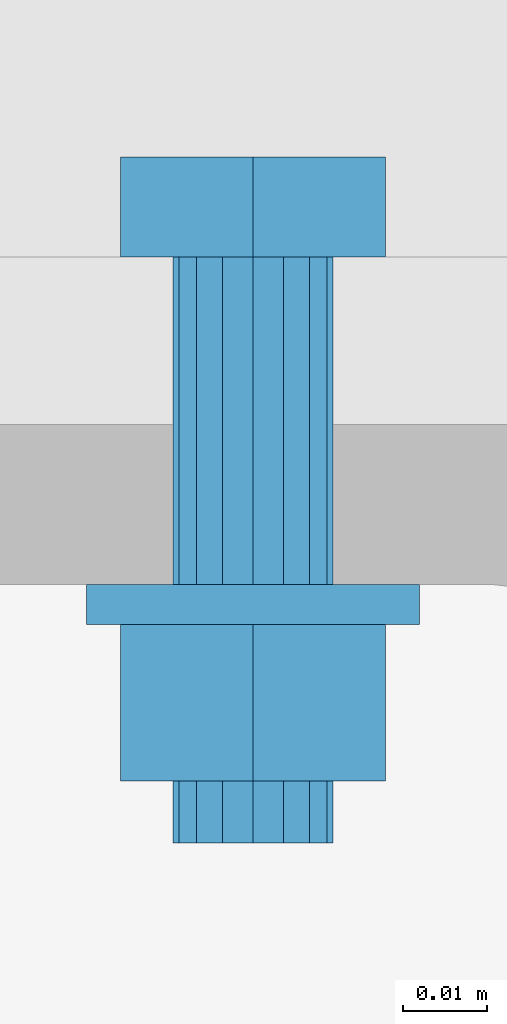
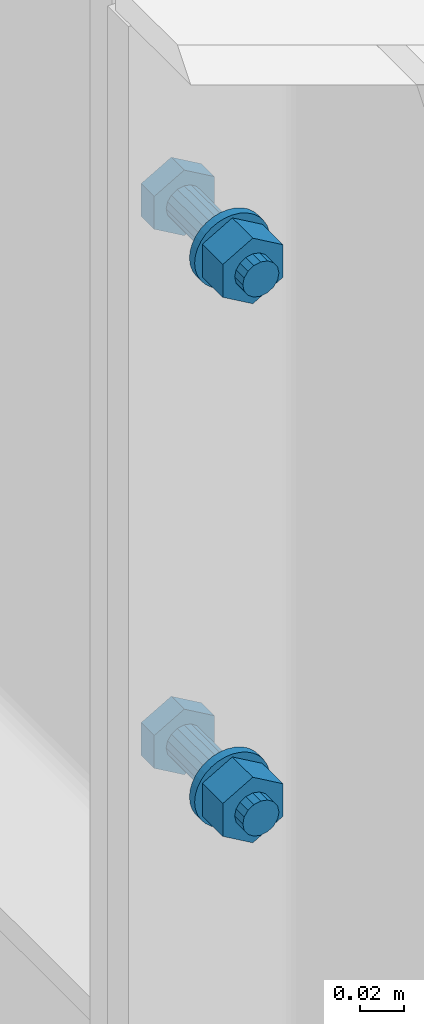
# Not in any storey, part 40 of 51: 2 mechanical fasteners.
"""IFC4 model written with IfcOpenShell, lengths in feet."""

import ifcopenshell
import ifcopenshell.guid

model = None  # the IFC model being written
_history = None  # IfcOwnerHistory: only IFC2X3 demands one
_inside = {}  # id of a spatial element -> (the spatial element, [elements in it])
_under = {}  # id of a project, library or spatial element -> (it, [spatial elements below it])
_declared = {}  # id of a project -> (the project, [libraries it declares])
_typed = {}  # id of a type object -> (the type object, [elements of that type])
_made_of = {}  # id of a material, layer set ... -> (it, [elements and type objects made of it])


def new_model(schema):
    """Start an empty IFC model of exactly this schema.

    Asked for "IFC4X3", IfcOpenShell would pick the latest addendum, in which some entities
    have other attributes; the version numbers below select the first issue.
    IFC2X3 requires an IfcOwnerHistory on every rooted entity: one is made here for all.
    """
    global model, _history
    if schema == "IFC4X3":
        model = ifcopenshell.file(schema_version=(4, 3, 0, 0))
    else:
        model = ifcopenshell.file(schema=schema)
    _inside.clear()
    _under.clear()
    _declared.clear()
    _typed.clear()
    _made_of.clear()
    _history = None
    if model.schema == "IFC2X3":
        org = make("IfcOrganization", Name="unknown")
        user = make(
            "IfcPersonAndOrganization",
            ThePerson=make("IfcPerson", FamilyName="unknown"),
            TheOrganization=org,
        )
        app = make(
            "IfcApplication",
            ApplicationDeveloper=org,
            Version="unknown",
            ApplicationFullName="unknown",
            ApplicationIdentifier="unknown",
        )
        _history = make(
            "IfcOwnerHistory",
            OwningUser=user,
            OwningApplication=app,
            ChangeAction="ADDED",
            CreationDate=0,
        )
    return model


def make(cls, **values):
    """One entity of the class cls with the attributes given. An attribute that is None is left unset."""
    return model.create_entity(
        cls, **{name: value for name, value in values.items() if value is not None}
    )


def entity(cls, *values):
    """Any entity or typed value of the class cls, its attributes in the order of the schema. None: left unset."""
    e = model.create_entity(cls)
    for i, value in enumerate(values):
        if value is not None:
            e[i] = value
    return e


def rooted(cls, **values):
    """An entity with a GlobalId (a new one), such as an element, a storey or a relation."""
    return make(cls, GlobalId=ifcopenshell.guid.new(), OwnerHistory=_history, **values)


def si_unit(unit_type, name, prefix=None):
    """IfcSIUnit, for example si_unit("LENGTHUNIT", "METRE", prefix="MILLI")."""
    return make("IfcSIUnit", UnitType=unit_type, Prefix=prefix, Name=name)


def converted_unit(unit_type, name, factor, base, dimensions=None, offset=None):
    """IfcConversionBasedUnit, such as the inch: factor (a typed value) times the base unit."""
    return make(
        "IfcConversionBasedUnit"
        if offset is None
        else "IfcConversionBasedUnitWithOffset",
        ConversionOffset=offset,
        Dimensions=None
        if dimensions is None
        else entity("IfcDimensionalExponents", *dimensions),
        UnitType=unit_type,
        Name=name,
        ConversionFactor=make(
            "IfcMeasureWithUnit", ValueComponent=factor, UnitComponent=base
        ),
    )


def assignment(units):
    """IfcUnitAssignment: the units of a project."""
    return None if units is None else make("IfcUnitAssignment", Units=units)


def point(xyz):
    """IfcCartesianPoint."""
    return None if xyz is None else make("IfcCartesianPoint", Coordinates=xyz)


def direction(xyz):
    """IfcDirection."""
    return None if xyz is None else make("IfcDirection", DirectionRatios=xyz)


def frame(location, z_axis=None, x_axis=None):
    """IfcAxis2Placement3D, a coordinate frame: its origin and axes. An axis left out is left unset."""
    return make(
        "IfcAxis2Placement3D",
        Location=point(location),
        Axis=direction(z_axis),
        RefDirection=direction(x_axis),
    )


def origin():
    """The frame at (0, 0, 0) with its axes left unset."""
    return frame((0.0, 0.0, 0.0))


def origin_with_axes():
    """The frame at (0, 0, 0) with the z axis (0, 0, 1) and the x axis (1, 0, 0) written out."""
    return frame((0.0, 0.0, 0.0), z_axis=(0.0, 0.0, 1.0), x_axis=(1.0, 0.0, 0.0))


def place(relative_to, where):
    """IfcLocalPlacement: puts the frame where relative to a parent placement (None: the world)."""
    return make(
        "IfcLocalPlacement", PlacementRelTo=relative_to, RelativePlacement=where
    )


def context(
    kind, dimensions, precision=None, world=None, true_north=None, identifier=None
):
    """IfcGeometricRepresentationContext, for example the 3D "Model" context."""
    return make(
        "IfcGeometricRepresentationContext",
        ContextIdentifier=identifier,
        ContextType=kind,
        CoordinateSpaceDimension=dimensions,
        Precision=precision,
        WorldCoordinateSystem=world,
        TrueNorth=true_north,
    )


def project(units=None, contexts=None):
    """IfcProject with its units and contexts."""
    return rooted(
        "IfcProject",
        Name="project",
        RepresentationContexts=contexts,
        UnitsInContext=assignment(units),
    )


def spatial(cls, under=None, at=None, **own):
    """A site, building, storey or space (cls), placed at a placement, below another one or the project."""
    s = rooted(cls, ObjectPlacement=at, **own)
    if under is not None:
        _under.setdefault(under.id(), (under, []))[1].append(s)
    return s


def faces_of(points, faces, orient=None, outer=None):
    """IfcFace entities. A face is a list of loops; a loop is a list of indices into points, from 0.

    orient and outer hold one flag for each loop. By default every Orientation is true, the
    first loop of a face is its IfcFaceOuterBound and the others are IfcFaceBound.
    """
    made = []
    for i, loops in enumerate(faces):
        bounds = []
        for j, loop in enumerate(loops):
            is_outer = j == 0 if outer is None else outer[i][j]
            bounds.append(
                make(
                    "IfcFaceOuterBound" if is_outer else "IfcFaceBound",
                    Bound=make("IfcPolyLoop", Polygon=[points[k] for k in loop]),
                    Orientation=True if orient is None else orient[i][j],
                )
            )
        made.append(make("IfcFace", Bounds=bounds))
    return made


def faceted_brep(points, faces, orient=None, outer=None, voids=None):
    """IfcFacetedBrep: a solid bounded by flat faces; with voids (closed shells), ...WithVoids."""
    shared = [point(p) for p in points]
    hull = make("IfcClosedShell", CfsFaces=faces_of(shared, faces, orient, outer))
    if voids is None:
        return make("IfcFacetedBrep", Outer=hull)
    return make(
        "IfcFacetedBrepWithVoids",
        Outer=hull,
        Voids=[
            make(cls, CfsFaces=faces_of(shared, fs, o, b)) for cls, fs, o, b in voids
        ],
    )


def shape(context_of_items, identifier, shape_type, items):
    """IfcShapeRepresentation: the items that make up one representation, for example the "Body"."""
    return make(
        "IfcShapeRepresentation",
        ContextOfItems=context_of_items,
        RepresentationIdentifier=identifier,
        RepresentationType=shape_type,
        Items=items,
    )


def made_of(thing, what):
    """Note that an element or type object is made of a material, layer set ...; save() writes the relation."""
    if what is not None:
        _made_of.setdefault(what.id(), (what, []))[1].append(thing)
    return thing


def element(
    cls,
    number,
    at=None,
    inside=None,
    cuts=None,
    type_object=None,
    material=None,
    context=None,
    identifier="Body",
    shape_type=None,
    held_by="IfcProductDefinitionShape",
    body=None,
    shapes=None,
    **own,
):
    """One element of the class cls, such as IfcWall. Its Tag is "e" and its number.

    at: its placement. inside: the storey or other place that contains it. cuts: it is an
    opening in that element (IfcRelVoidsElement). A single representation is given by context,
    identifier, shape_type and body (its items); several are given by shapes. held_by: the class
    of the entity that holds the representations. save() writes the other relations.
    """
    e = rooted(cls, Tag="e%d" % number, ObjectPlacement=at, **own)
    if body is not None:
        shapes = [shape(context, identifier, shape_type, body)]
    if shapes is not None:
        e.Representation = make(held_by, Representations=shapes)
    if inside is not None:
        _inside.setdefault(inside.id(), (inside, []))[1].append(e)
    if cuts is not None:
        rooted(
            "IfcRelVoidsElement", RelatingBuildingElement=cuts, RelatedOpeningElement=e
        )
    if type_object is not None:
        _typed.setdefault(type_object.id(), (type_object, []))[1].append(e)
    return made_of(e, material)


def aggregate(whole, parts):
    """IfcRelAggregates: a whole, such as a stair, and the parts it consists of."""
    return rooted("IfcRelAggregates", RelatingObject=whole, RelatedObjects=parts)


def save(model, path):
    """Write the relations noted so far, then the file.

    IfcRelAggregates (storeys below a building ...), IfcRelContainedInSpatialStructure (elements
    in a storey), IfcRelDefinesByType, IfcRelAssociatesMaterial and IfcRelDeclares: one each for
    every whole, place, type object, material and project.
    """
    for whole, parts in _under.values():
        aggregate(whole, parts)
    for where, things in _inside.values():
        rooted(
            "IfcRelContainedInSpatialStructure",
            RelatedElements=things,
            RelatingStructure=where,
        )
    for kind, things in _typed.values():
        rooted("IfcRelDefinesByType", RelatedObjects=things, RelatingType=kind)
    for what, things in _made_of.values():
        rooted("IfcRelAssociatesMaterial", RelatedObjects=things, RelatingMaterial=what)
    for by, libraries in _declared.values():
        rooted("IfcRelDeclares", RelatingContext=by, RelatedDefinitions=libraries)
    model.write(path)


model = new_model("IFC4")

# Units and contexts
model_context = context("Model", 3, precision=0.0001, world=origin(), true_north=direction((6.123233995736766e-17, 1.0)))
ifc_project = project(units=[converted_unit("LENGTHUNIT", "FOOT", entity("IfcLengthMeasure", 0.3048), si_unit("LENGTHUNIT", "METRE"), dimensions=[1, 0, 0, 0, 0, 0, 0]), converted_unit("AREAUNIT", "SQUARE INCH", entity("IfcAreaMeasure", 0.0006451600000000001), si_unit("AREAUNIT", "SQUARE_METRE"), dimensions=[2, 0, 0, 0, 0, 0, 0]), converted_unit("PLANEANGLEUNIT", "DEGREE", entity("IfcPlaneAngleMeasure", 0.017453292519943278), si_unit("PLANEANGLEUNIT", "RADIAN"), dimensions=[0, 0, 0, 0, 0, 0, 0]), si_unit("VOLUMEUNIT", "CUBIC_METRE")], contexts=[model_context])

# Site
site_placement = place(None, origin())
site = spatial("IfcSite", under=ifc_project, at=site_placement, Name="Default", CompositionType="ELEMENT")

# Mechanical fasteners
mechanical_fastener_1_placement = place(site_placement, origin_with_axes())
element("IfcMechanicalFastener", 1, at=mechanical_fastener_1_placement, inside=site, ObjectType="Bolt#1", NominalDiameter=0.0625, NominalLength=0.22916666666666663, context=model_context, shape_type="Brep", body=[
    faceted_brep([(76.67283001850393, 6.28730066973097, 19.146561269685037), (76.67283001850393, 6.326363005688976, 19.146561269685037), (76.72470133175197, 6.326363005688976, 19.11661335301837), (76.72470133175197, 6.28730066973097, 19.11661335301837), (76.77657264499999, 6.326363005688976, 19.146561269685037), (76.77657264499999, 6.28730066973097, 19.146561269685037), (76.77657264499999, 6.326363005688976, 19.206457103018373), (76.77657264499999, 6.28730066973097, 19.206457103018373), (76.72470133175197, 6.326363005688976, 19.23640501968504), (76.72470133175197, 6.28730066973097, 19.23640501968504), (76.67283001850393, 6.326363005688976, 19.206457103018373), (76.67283001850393, 6.28730066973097, 19.206457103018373)], [[[0, 1, 2, 3]], [[3, 2, 4, 5]], [[5, 4, 6, 7]], [[7, 6, 8, 9]], [[9, 8, 10, 11]], [[11, 10, 1, 0]], [[4, 2, 1, 10, 8, 6]], [[0, 3, 5, 7, 9, 11]]]),
    faceted_brep([(76.75595133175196, 6.28730066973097, 19.176509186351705), (76.75595133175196, 6.159183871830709, 19.176509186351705), (76.75357256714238, 6.159183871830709, 19.164550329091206), (76.75357256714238, 6.28730066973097, 19.164550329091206), (76.7467984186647, 6.159183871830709, 19.15441209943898), (76.7467984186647, 6.28730066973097, 19.15441209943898), (76.73666018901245, 6.159183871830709, 19.147637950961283), (76.73666018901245, 6.28730066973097, 19.147637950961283), (76.72470133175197, 6.159183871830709, 19.145259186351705), (76.72470133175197, 6.28730066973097, 19.145259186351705), (76.71274247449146, 6.159183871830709, 19.147637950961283), (76.71274247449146, 6.28730066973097, 19.147637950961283), (76.70260424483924, 6.159183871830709, 19.15441209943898), (76.70260424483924, 6.28730066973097, 19.15441209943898), (76.69583009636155, 6.159183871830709, 19.164550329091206), (76.69583009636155, 6.28730066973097, 19.164550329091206), (76.69345133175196, 6.159183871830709, 19.176509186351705), (76.69345133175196, 6.28730066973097, 19.176509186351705), (76.69583009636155, 6.159183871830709, 19.188468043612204), (76.69583009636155, 6.28730066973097, 19.188468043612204), (76.70260424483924, 6.159183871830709, 19.198606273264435), (76.70260424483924, 6.28730066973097, 19.198606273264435), (76.71274247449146, 6.159183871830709, 19.205380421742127), (76.71274247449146, 6.28730066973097, 19.205380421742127), (76.72470133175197, 6.159183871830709, 19.207759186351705), (76.72470133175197, 6.28730066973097, 19.207759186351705), (76.73666018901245, 6.159183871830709, 19.205380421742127), (76.73666018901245, 6.28730066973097, 19.205380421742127), (76.7467984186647, 6.159183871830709, 19.198606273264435), (76.7467984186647, 6.28730066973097, 19.198606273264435), (76.75357256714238, 6.159183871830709, 19.188468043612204), (76.75357256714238, 6.28730066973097, 19.188468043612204)], [[[0, 1, 2, 3]], [[3, 2, 4, 5]], [[5, 4, 6, 7]], [[7, 6, 8, 9]], [[9, 8, 10, 11]], [[11, 10, 12, 13]], [[13, 12, 14, 15]], [[15, 14, 16, 17]], [[17, 16, 18, 19]], [[19, 18, 20, 21]], [[21, 20, 22, 23]], [[23, 22, 24, 25]], [[25, 24, 26, 27]], [[27, 26, 28, 29]], [[29, 28, 30, 31]], [[31, 30, 1, 0]], [[0, 3, 5, 7, 9, 11, 13, 15, 17, 19, 21, 23, 25, 27, 29, 31]], [[1, 30, 28, 26, 24, 22, 20, 18, 16, 14, 12, 10, 8, 6, 4, 2]]]),
    faceted_brep([(76.78980549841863, 6.159183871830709, 19.176509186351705), (76.78980549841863, 6.143558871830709, 19.176509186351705), (76.78855454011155, 6.143558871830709, 19.1638079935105), (76.78855454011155, 6.159183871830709, 19.1638079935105), (76.78484973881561, 6.143558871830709, 19.151594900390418), (76.78484973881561, 6.159183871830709, 19.151594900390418), (76.77883346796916, 6.143558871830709, 19.14033924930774), (76.77883346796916, 6.159183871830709, 19.14033924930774), (76.7707369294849, 6.143558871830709, 19.130473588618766), (76.7707369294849, 6.159183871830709, 19.130473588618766), (76.76087126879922, 6.143558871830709, 19.122377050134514), (76.76087126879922, 6.159183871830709, 19.122377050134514), (76.74961561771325, 6.143558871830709, 19.11636077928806), (76.74961561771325, 6.159183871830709, 19.11636077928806), (76.73740252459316, 6.143558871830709, 19.112655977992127), (76.73740252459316, 6.159183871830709, 19.112655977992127), (76.72470133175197, 6.143558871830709, 19.111405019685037), (76.72470133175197, 6.159183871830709, 19.111405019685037), (76.71200013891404, 6.143558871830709, 19.112655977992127), (76.71200013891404, 6.159183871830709, 19.112655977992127), (76.69978704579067, 6.143558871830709, 19.11636077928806), (76.69978704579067, 6.159183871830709, 19.11636077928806), (76.688531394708, 6.143558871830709, 19.122377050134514), (76.688531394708, 6.159183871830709, 19.122377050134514), (76.67866573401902, 6.143558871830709, 19.130473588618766), (76.67866573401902, 6.159183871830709, 19.130473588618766), (76.67056919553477, 6.143558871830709, 19.14033924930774), (76.67056919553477, 6.159183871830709, 19.14033924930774), (76.66455292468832, 6.143558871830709, 19.151594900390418), (76.66455292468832, 6.159183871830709, 19.151594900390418), (76.66084812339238, 6.143558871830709, 19.1638079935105), (76.66084812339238, 6.159183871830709, 19.1638079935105), (76.6595971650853, 6.143558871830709, 19.176509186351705), (76.6595971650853, 6.159183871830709, 19.176509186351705), (76.66084812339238, 6.143558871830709, 19.18921037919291), (76.66084812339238, 6.159183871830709, 19.18921037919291), (76.66455292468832, 6.143558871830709, 19.201423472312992), (76.66455292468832, 6.159183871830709, 19.201423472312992), (76.67056919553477, 6.143558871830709, 19.21267912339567), (76.67056919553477, 6.159183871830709, 19.21267912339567), (76.67866573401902, 6.143558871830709, 19.222544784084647), (76.67866573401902, 6.159183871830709, 19.222544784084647), (76.688531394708, 6.143558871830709, 19.230641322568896), (76.688531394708, 6.159183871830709, 19.230641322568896), (76.69978704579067, 6.143558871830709, 19.23665759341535), (76.69978704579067, 6.159183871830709, 19.23665759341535), (76.71200013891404, 6.143558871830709, 19.240362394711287), (76.71200013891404, 6.159183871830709, 19.240362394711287), (76.72470133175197, 6.143558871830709, 19.241613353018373), (76.72470133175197, 6.159183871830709, 19.241613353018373), (76.73740252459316, 6.143558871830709, 19.240362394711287), (76.73740252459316, 6.159183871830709, 19.240362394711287), (76.74961561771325, 6.143558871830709, 19.23665759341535), (76.74961561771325, 6.159183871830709, 19.23665759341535), (76.76087126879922, 6.143558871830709, 19.230641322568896), (76.76087126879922, 6.159183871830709, 19.230641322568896), (76.7707369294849, 6.143558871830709, 19.222544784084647), (76.7707369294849, 6.159183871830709, 19.222544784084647), (76.77883346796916, 6.143558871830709, 19.21267912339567), (76.77883346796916, 6.159183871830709, 19.21267912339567), (76.78484973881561, 6.143558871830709, 19.201423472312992), (76.78484973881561, 6.159183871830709, 19.201423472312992), (76.78855454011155, 6.143558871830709, 19.18921037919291), (76.78855454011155, 6.159183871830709, 19.18921037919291)], [[[0, 1, 2, 3]], [[3, 2, 4, 5]], [[5, 4, 6, 7]], [[7, 6, 8, 9]], [[9, 8, 10, 11]], [[11, 10, 12, 13]], [[13, 12, 14, 15]], [[15, 14, 16, 17]], [[17, 16, 18, 19]], [[19, 18, 20, 21]], [[21, 20, 22, 23]], [[23, 22, 24, 25]], [[25, 24, 26, 27]], [[27, 26, 28, 29]], [[29, 28, 30, 31]], [[31, 30, 32, 33]], [[33, 32, 34, 35]], [[35, 34, 36, 37]], [[37, 36, 38, 39]], [[39, 38, 40, 41]], [[41, 40, 42, 43]], [[43, 42, 44, 45]], [[45, 44, 46, 47]], [[47, 46, 48, 49]], [[49, 48, 50, 51]], [[51, 50, 52, 53]], [[53, 52, 54, 55]], [[55, 54, 56, 57]], [[57, 56, 58, 59]], [[59, 58, 60, 61]], [[61, 60, 62, 63]], [[63, 62, 1, 0]], [[0, 3, 5, 7, 9, 11, 13, 15, 17, 19, 21, 23, 25, 27, 29, 31, 33, 35, 37, 39, 41, 43, 45, 47, 49, 51, 53, 55, 57, 59, 61, 63]], [[1, 62, 60, 58, 56, 54, 52, 50, 48, 46, 44, 42, 40, 38, 36, 34, 32, 30, 28, 26, 24, 22, 20, 18, 16, 14, 12, 10, 8, 6, 4, 2]]]),
    faceted_brep([(76.67283001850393, 6.082361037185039, 19.146561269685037), (76.67283001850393, 6.143558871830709, 19.146561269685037), (76.72470133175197, 6.143558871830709, 19.11661335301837), (76.72470133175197, 6.082361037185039, 19.11661335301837), (76.77657264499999, 6.143558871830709, 19.146561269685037), (76.77657264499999, 6.082361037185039, 19.146561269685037), (76.77657264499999, 6.143558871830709, 19.206457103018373), (76.77657264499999, 6.082361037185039, 19.206457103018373), (76.72470133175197, 6.143558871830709, 19.23640501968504), (76.72470133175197, 6.082361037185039, 19.23640501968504), (76.67283001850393, 6.143558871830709, 19.206457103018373), (76.67283001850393, 6.082361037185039, 19.206457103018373)], [[[0, 1, 2, 3]], [[3, 2, 4, 5]], [[5, 4, 6, 7]], [[7, 6, 8, 9]], [[9, 8, 10, 11]], [[11, 10, 1, 0]], [[4, 2, 1, 10, 8, 6]], [[0, 3, 5, 7, 9, 11]]]),
    faceted_brep([(76.75595133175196, 6.082361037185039, 19.176509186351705), (76.75595133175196, 6.058134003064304, 19.176509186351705), (76.75357256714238, 6.058134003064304, 19.164550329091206), (76.75357256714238, 6.082361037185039, 19.164550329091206), (76.7467984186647, 6.058134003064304, 19.15441209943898), (76.7467984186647, 6.082361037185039, 19.15441209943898), (76.73666018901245, 6.058134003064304, 19.147637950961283), (76.73666018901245, 6.082361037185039, 19.147637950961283), (76.72470133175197, 6.058134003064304, 19.145259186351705), (76.72470133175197, 6.082361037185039, 19.145259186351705), (76.71274247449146, 6.058134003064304, 19.147637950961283), (76.71274247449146, 6.082361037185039, 19.147637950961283), (76.70260424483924, 6.058134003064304, 19.15441209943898), (76.70260424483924, 6.082361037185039, 19.15441209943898), (76.69583009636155, 6.058134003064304, 19.164550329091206), (76.69583009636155, 6.082361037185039, 19.164550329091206), (76.69345133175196, 6.058134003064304, 19.176509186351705), (76.69345133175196, 6.082361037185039, 19.176509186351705), (76.69583009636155, 6.058134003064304, 19.188468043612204), (76.69583009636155, 6.082361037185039, 19.188468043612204), (76.70260424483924, 6.058134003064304, 19.198606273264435), (76.70260424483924, 6.082361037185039, 19.198606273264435), (76.71274247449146, 6.058134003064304, 19.205380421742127), (76.71274247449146, 6.082361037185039, 19.205380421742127), (76.72470133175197, 6.058134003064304, 19.207759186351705), (76.72470133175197, 6.082361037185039, 19.207759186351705), (76.73666018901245, 6.058134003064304, 19.205380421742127), (76.73666018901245, 6.082361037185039, 19.205380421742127), (76.7467984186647, 6.058134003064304, 19.198606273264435), (76.7467984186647, 6.082361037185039, 19.198606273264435), (76.75357256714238, 6.058134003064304, 19.188468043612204), (76.75357256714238, 6.082361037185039, 19.188468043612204)], [[[0, 1, 2, 3]], [[3, 2, 4, 5]], [[5, 4, 6, 7]], [[7, 6, 8, 9]], [[9, 8, 10, 11]], [[11, 10, 12, 13]], [[13, 12, 14, 15]], [[15, 14, 16, 17]], [[17, 16, 18, 19]], [[19, 18, 20, 21]], [[21, 20, 22, 23]], [[23, 22, 24, 25]], [[25, 24, 26, 27]], [[27, 26, 28, 29]], [[29, 28, 30, 31]], [[31, 30, 1, 0]], [[0, 3, 5, 7, 9, 11, 13, 15, 17, 19, 21, 23, 25, 27, 29, 31]], [[1, 30, 28, 26, 24, 22, 20, 18, 16, 14, 12, 10, 8, 6, 4, 2]]]),
])
mechanical_fastener_2_placement = place(site_placement, origin_with_axes())
element("IfcMechanicalFastener", 2, at=mechanical_fastener_2_placement, inside=site, ObjectType="Bolt#2", NominalDiameter=0.0625, NominalLength=0.22916666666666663, context=model_context, shape_type="Brep", body=[
    faceted_brep([(76.67283001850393, 6.28730066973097, 18.1623093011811), (76.67283001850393, 6.326363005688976, 18.1623093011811), (76.72470133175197, 6.326363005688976, 18.132361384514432), (76.72470133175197, 6.28730066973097, 18.132361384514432), (76.77657264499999, 6.326363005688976, 18.1623093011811), (76.77657264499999, 6.28730066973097, 18.1623093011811), (76.77657264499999, 6.326363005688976, 18.222205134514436), (76.77657264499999, 6.28730066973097, 18.222205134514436), (76.72470133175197, 6.326363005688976, 18.252153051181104), (76.72470133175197, 6.28730066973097, 18.252153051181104), (76.67283001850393, 6.326363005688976, 18.222205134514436), (76.67283001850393, 6.28730066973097, 18.222205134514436)], [[[0, 1, 2, 3]], [[3, 2, 4, 5]], [[5, 4, 6, 7]], [[7, 6, 8, 9]], [[9, 8, 10, 11]], [[11, 10, 1, 0]], [[4, 2, 1, 10, 8, 6]], [[0, 3, 5, 7, 9, 11]]]),
    faceted_brep([(76.75595133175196, 6.28730066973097, 18.192257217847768), (76.75595133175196, 6.159183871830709, 18.192257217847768), (76.75357256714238, 6.159183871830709, 18.18029836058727), (76.75357256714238, 6.28730066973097, 18.18029836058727), (76.7467984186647, 6.159183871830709, 18.17016013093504), (76.7467984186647, 6.28730066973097, 18.17016013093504), (76.73666018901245, 6.159183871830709, 18.163385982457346), (76.73666018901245, 6.28730066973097, 18.163385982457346), (76.72470133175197, 6.159183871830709, 18.161007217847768), (76.72470133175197, 6.28730066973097, 18.161007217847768), (76.71274247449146, 6.159183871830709, 18.163385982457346), (76.71274247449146, 6.28730066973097, 18.163385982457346), (76.70260424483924, 6.159183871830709, 18.17016013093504), (76.70260424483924, 6.28730066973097, 18.17016013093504), (76.69583009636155, 6.159183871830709, 18.18029836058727), (76.69583009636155, 6.28730066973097, 18.18029836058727), (76.69345133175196, 6.159183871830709, 18.192257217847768), (76.69345133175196, 6.28730066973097, 18.192257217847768), (76.69583009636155, 6.159183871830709, 18.204216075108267), (76.69583009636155, 6.28730066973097, 18.204216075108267), (76.70260424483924, 6.159183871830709, 18.214354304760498), (76.70260424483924, 6.28730066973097, 18.214354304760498), (76.71274247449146, 6.159183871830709, 18.22112845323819), (76.71274247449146, 6.28730066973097, 18.22112845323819), (76.72470133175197, 6.159183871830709, 18.223507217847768), (76.72470133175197, 6.28730066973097, 18.223507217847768), (76.73666018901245, 6.159183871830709, 18.22112845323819), (76.73666018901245, 6.28730066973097, 18.22112845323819), (76.7467984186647, 6.159183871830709, 18.214354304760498), (76.7467984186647, 6.28730066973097, 18.214354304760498), (76.75357256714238, 6.159183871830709, 18.204216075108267), (76.75357256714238, 6.28730066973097, 18.204216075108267)], [[[0, 1, 2, 3]], [[3, 2, 4, 5]], [[5, 4, 6, 7]], [[7, 6, 8, 9]], [[9, 8, 10, 11]], [[11, 10, 12, 13]], [[13, 12, 14, 15]], [[15, 14, 16, 17]], [[17, 16, 18, 19]], [[19, 18, 20, 21]], [[21, 20, 22, 23]], [[23, 22, 24, 25]], [[25, 24, 26, 27]], [[27, 26, 28, 29]], [[29, 28, 30, 31]], [[31, 30, 1, 0]], [[0, 3, 5, 7, 9, 11, 13, 15, 17, 19, 21, 23, 25, 27, 29, 31]], [[1, 30, 28, 26, 24, 22, 20, 18, 16, 14, 12, 10, 8, 6, 4, 2]]]),
    faceted_brep([(76.78980549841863, 6.159183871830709, 18.192257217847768), (76.78980549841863, 6.143558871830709, 18.192257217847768), (76.78855454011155, 6.143558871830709, 18.179556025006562), (76.78855454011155, 6.159183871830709, 18.179556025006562), (76.78484973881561, 6.143558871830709, 18.16734293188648), (76.78484973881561, 6.159183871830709, 18.16734293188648), (76.77883346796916, 6.143558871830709, 18.156087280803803), (76.77883346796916, 6.159183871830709, 18.156087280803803), (76.7707369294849, 6.143558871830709, 18.14622162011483), (76.7707369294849, 6.159183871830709, 18.14622162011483), (76.76087126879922, 6.143558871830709, 18.138125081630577), (76.76087126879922, 6.159183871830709, 18.138125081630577), (76.74961561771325, 6.143558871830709, 18.13210881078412), (76.74961561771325, 6.159183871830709, 18.13210881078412), (76.73740252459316, 6.143558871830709, 18.12840400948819), (76.73740252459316, 6.159183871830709, 18.12840400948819), (76.72470133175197, 6.143558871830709, 18.1271530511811), (76.72470133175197, 6.159183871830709, 18.1271530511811), (76.71200013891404, 6.143558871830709, 18.12840400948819), (76.71200013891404, 6.159183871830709, 18.12840400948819), (76.69978704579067, 6.143558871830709, 18.13210881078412), (76.69978704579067, 6.159183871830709, 18.13210881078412), (76.688531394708, 6.143558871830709, 18.138125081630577), (76.688531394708, 6.159183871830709, 18.138125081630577), (76.67866573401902, 6.143558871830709, 18.14622162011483), (76.67866573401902, 6.159183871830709, 18.14622162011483), (76.67056919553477, 6.143558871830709, 18.156087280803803), (76.67056919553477, 6.159183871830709, 18.156087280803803), (76.66455292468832, 6.143558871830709, 18.16734293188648), (76.66455292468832, 6.159183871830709, 18.16734293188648), (76.66084812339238, 6.143558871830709, 18.179556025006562), (76.66084812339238, 6.159183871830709, 18.179556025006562), (76.6595971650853, 6.143558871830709, 18.192257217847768), (76.6595971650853, 6.159183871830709, 18.192257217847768), (76.66084812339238, 6.143558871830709, 18.204958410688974), (76.66084812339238, 6.159183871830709, 18.204958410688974), (76.66455292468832, 6.143558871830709, 18.217171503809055), (76.66455292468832, 6.159183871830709, 18.217171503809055), (76.67056919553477, 6.143558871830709, 18.228427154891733), (76.67056919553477, 6.159183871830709, 18.228427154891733), (76.67866573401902, 6.143558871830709, 18.23829281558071), (76.67866573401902, 6.159183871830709, 18.23829281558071), (76.688531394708, 6.143558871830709, 18.24638935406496), (76.688531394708, 6.159183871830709, 18.24638935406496), (76.69978704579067, 6.143558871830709, 18.252405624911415), (76.69978704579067, 6.159183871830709, 18.252405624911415), (76.71200013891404, 6.143558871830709, 18.25611042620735), (76.71200013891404, 6.159183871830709, 18.25611042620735), (76.72470133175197, 6.143558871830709, 18.257361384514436), (76.72470133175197, 6.159183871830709, 18.257361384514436), (76.73740252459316, 6.143558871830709, 18.25611042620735), (76.73740252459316, 6.159183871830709, 18.25611042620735), (76.74961561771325, 6.143558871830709, 18.252405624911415), (76.74961561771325, 6.159183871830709, 18.252405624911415), (76.76087126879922, 6.143558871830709, 18.24638935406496), (76.76087126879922, 6.159183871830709, 18.24638935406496), (76.7707369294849, 6.143558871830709, 18.23829281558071), (76.7707369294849, 6.159183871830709, 18.23829281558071), (76.77883346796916, 6.143558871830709, 18.228427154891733), (76.77883346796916, 6.159183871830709, 18.228427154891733), (76.78484973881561, 6.143558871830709, 18.217171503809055), (76.78484973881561, 6.159183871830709, 18.217171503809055), (76.78855454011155, 6.143558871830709, 18.204958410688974), (76.78855454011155, 6.159183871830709, 18.204958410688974)], [[[0, 1, 2, 3]], [[3, 2, 4, 5]], [[5, 4, 6, 7]], [[7, 6, 8, 9]], [[9, 8, 10, 11]], [[11, 10, 12, 13]], [[13, 12, 14, 15]], [[15, 14, 16, 17]], [[17, 16, 18, 19]], [[19, 18, 20, 21]], [[21, 20, 22, 23]], [[23, 22, 24, 25]], [[25, 24, 26, 27]], [[27, 26, 28, 29]], [[29, 28, 30, 31]], [[31, 30, 32, 33]], [[33, 32, 34, 35]], [[35, 34, 36, 37]], [[37, 36, 38, 39]], [[39, 38, 40, 41]], [[41, 40, 42, 43]], [[43, 42, 44, 45]], [[45, 44, 46, 47]], [[47, 46, 48, 49]], [[49, 48, 50, 51]], [[51, 50, 52, 53]], [[53, 52, 54, 55]], [[55, 54, 56, 57]], [[57, 56, 58, 59]], [[59, 58, 60, 61]], [[61, 60, 62, 63]], [[63, 62, 1, 0]], [[0, 3, 5, 7, 9, 11, 13, 15, 17, 19, 21, 23, 25, 27, 29, 31, 33, 35, 37, 39, 41, 43, 45, 47, 49, 51, 53, 55, 57, 59, 61, 63]], [[1, 62, 60, 58, 56, 54, 52, 50, 48, 46, 44, 42, 40, 38, 36, 34, 32, 30, 28, 26, 24, 22, 20, 18, 16, 14, 12, 10, 8, 6, 4, 2]]]),
    faceted_brep([(76.67283001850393, 6.082361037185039, 18.1623093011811), (76.67283001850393, 6.143558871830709, 18.1623093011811), (76.72470133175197, 6.143558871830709, 18.132361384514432), (76.72470133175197, 6.082361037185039, 18.132361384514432), (76.77657264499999, 6.143558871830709, 18.1623093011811), (76.77657264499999, 6.082361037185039, 18.1623093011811), (76.77657264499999, 6.143558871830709, 18.222205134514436), (76.77657264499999, 6.082361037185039, 18.222205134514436), (76.72470133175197, 6.143558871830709, 18.252153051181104), (76.72470133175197, 6.082361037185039, 18.252153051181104), (76.67283001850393, 6.143558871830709, 18.222205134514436), (76.67283001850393, 6.082361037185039, 18.222205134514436)], [[[0, 1, 2, 3]], [[3, 2, 4, 5]], [[5, 4, 6, 7]], [[7, 6, 8, 9]], [[9, 8, 10, 11]], [[11, 10, 1, 0]], [[4, 2, 1, 10, 8, 6]], [[0, 3, 5, 7, 9, 11]]]),
    faceted_brep([(76.75595133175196, 6.082361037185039, 18.192257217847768), (76.75595133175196, 6.058134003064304, 18.192257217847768), (76.75357256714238, 6.058134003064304, 18.18029836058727), (76.75357256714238, 6.082361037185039, 18.18029836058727), (76.7467984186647, 6.058134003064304, 18.17016013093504), (76.7467984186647, 6.082361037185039, 18.17016013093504), (76.73666018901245, 6.058134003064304, 18.163385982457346), (76.73666018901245, 6.082361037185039, 18.163385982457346), (76.72470133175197, 6.058134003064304, 18.161007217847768), (76.72470133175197, 6.082361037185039, 18.161007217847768), (76.71274247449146, 6.058134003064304, 18.163385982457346), (76.71274247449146, 6.082361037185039, 18.163385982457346), (76.70260424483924, 6.058134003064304, 18.17016013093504), (76.70260424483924, 6.082361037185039, 18.17016013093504), (76.69583009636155, 6.058134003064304, 18.18029836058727), (76.69583009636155, 6.082361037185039, 18.18029836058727), (76.69345133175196, 6.058134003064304, 18.192257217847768), (76.69345133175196, 6.082361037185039, 18.192257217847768), (76.69583009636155, 6.058134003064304, 18.204216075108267), (76.69583009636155, 6.082361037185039, 18.204216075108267), (76.70260424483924, 6.058134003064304, 18.214354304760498), (76.70260424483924, 6.082361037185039, 18.214354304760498), (76.71274247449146, 6.058134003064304, 18.22112845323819), (76.71274247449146, 6.082361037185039, 18.22112845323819), (76.72470133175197, 6.058134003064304, 18.223507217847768), (76.72470133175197, 6.082361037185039, 18.223507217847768), (76.73666018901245, 6.058134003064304, 18.22112845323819), (76.73666018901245, 6.082361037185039, 18.22112845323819), (76.7467984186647, 6.058134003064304, 18.214354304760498), (76.7467984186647, 6.082361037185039, 18.214354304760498), (76.75357256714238, 6.058134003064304, 18.204216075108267), (76.75357256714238, 6.082361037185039, 18.204216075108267)], [[[0, 1, 2, 3]], [[3, 2, 4, 5]], [[5, 4, 6, 7]], [[7, 6, 8, 9]], [[9, 8, 10, 11]], [[11, 10, 12, 13]], [[13, 12, 14, 15]], [[15, 14, 16, 17]], [[17, 16, 18, 19]], [[19, 18, 20, 21]], [[21, 20, 22, 23]], [[23, 22, 24, 25]], [[25, 24, 26, 27]], [[27, 26, 28, 29]], [[29, 28, 30, 31]], [[31, 30, 1, 0]], [[0, 3, 5, 7, 9, 11, 13, 15, 17, 19, 21, 23, 25, 27, 29, 31]], [[1, 30, 28, 26, 24, 22, 20, 18, 16, 14, 12, 10, 8, 6, 4, 2]]]),
])

save(model, "model.ifc")
